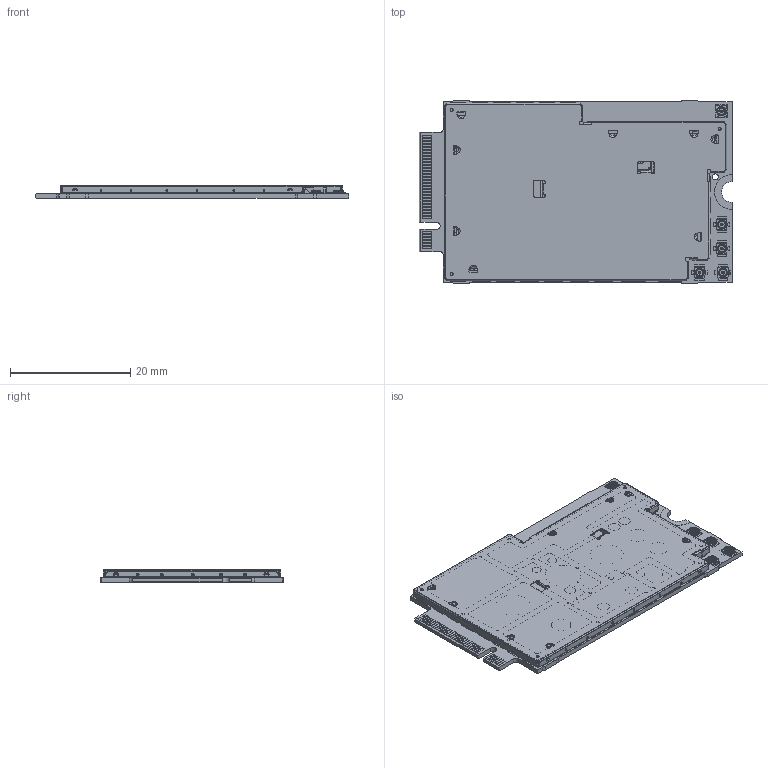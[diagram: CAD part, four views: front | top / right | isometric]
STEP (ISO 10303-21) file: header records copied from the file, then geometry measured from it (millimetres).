
FILE_DESCRIPTION((''),'2;1');
FILE_NAME('5307500_EM9293_PCA_ASM','2023-04-19T14:05:04',('awicikowski'),('Sierra Wireless'),'CREO PARAMETRIC BY PTC INC, 2022124','CREO PARAMETRIC BY PTC INC, 2022124','');
FILE_SCHEMA(('AUTOMOTIVE_DESIGN { 1 0 10303 214 1 1 1 1 }'));
Length unit declared in the file: inch
Products named in the file (122): EM9293_5307501; 3400628; 3300516; 3017705; 3016818; 3001910; 3016858; 3017659; 3017658; 3017739; 3017826; 3017799; 3017631; 3016889; 3017679; 3017742; 3017266; 3017612; 3017376; 3017650; 3017607; 3017745; 3017605; 3017716; 3017707; 3100651; 3016819; 3100230; 3100153; 3016820; 3017645; 3700553; 3700478; 3017755; 3017078; 3017687; 3017690; 3017465; 3016697; 3017610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
Assembly tree (717 placements, depth 2):
  5307500_EM9293_PCA_ASM
    EM9293_5307501
    3400628
    3300516
    3017705
    3016818  x20
    3001910  x9
    3016858  x8
    3017659  x2
    3017658
    3017739
    3017826  x2
    3017799
    3017631  x4
    3016889  x2
    3017679  x2
    3017742  x3
    3017266  x6
    3017612  x2
    3017376
    3017650
    3017607
    3017745
    3017605
    3017716
    3017707
    3100651  x34
    3016819  x6
    3100230  x57
    3100153
    3016820  x8
    3017645
    3700553  x2
    3700478
    3017755
    3017078  x3
    3017687
    3017690  x2
    3017465  x5
    3016697  x2
    3017610  x2
    3016936
    3100645
    3017715  x4
    3017537  x3
    3017529  x42
    3017541  x4
    3017525
    3017526  x9
    3017528  x7
    3017532  x5
    3017530  x2
    3016038  x3
    3017527
    3017562  x2
    3016027
    3017545  x3
    3017534  x4
    3016058  x5
    3016053  x3
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Bounding box: 52.15 x 30.3 x 2.14 mm (x, y, z)
Volume: 2069 mm3; surface area: 10185.7 mm2
Topology: 724 solids, 736 shells, 6729 faces, 16373 edges, 11488 vertices
Faces by surface type: plane 5941, cylinder 563, sphere 116, cone 48, bspline 32, torus 29
Entity records: 177818 total; most frequent: CARTESIAN_POINT 24892, DIRECTION 20700, ORIENTED_EDGE 14443, PROPERTY_DEFINITION 7304, EDGE_CURVE 7280, REPRESENTATION 7180, PROPERTY_DEFINITION_REPRESENTATION 7180, VECTOR 7084
